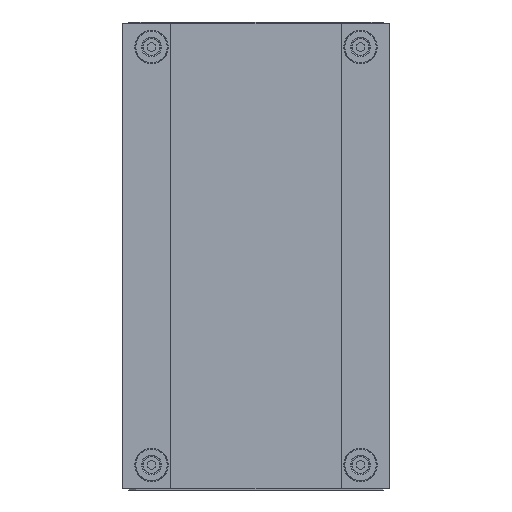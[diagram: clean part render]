
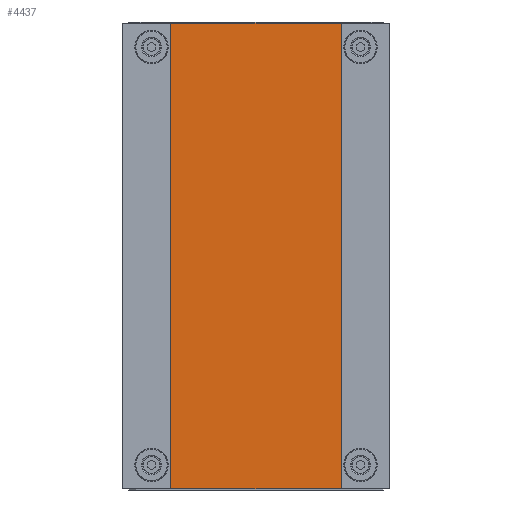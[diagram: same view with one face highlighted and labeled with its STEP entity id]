
A CAD part, front view. The second image highlights one B-rep face of the part: STEP entity #4437.
In plain terms, the highlighted planar face has unit normal (0, -1, 0).
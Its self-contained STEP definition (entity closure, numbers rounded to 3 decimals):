
#327 = CARTESIAN_POINT ( 'NONE',  ( 84.5, -20., -223. ) ) ;
#1914 = VERTEX_POINT ( 'NONE', #7737 ) ;
#2626 = LINE ( 'NONE', #2627, #2628 ) ;
#2627 = CARTESIAN_POINT ( 'NONE',  ( -84.5, -20., 223. ) ) ;
#2628 = VECTOR ( 'NONE', #2629, 1000. ) ;
#2629 = DIRECTION ( 'NONE',  ( 0., 0., -1. ) ) ;
#2631 = EDGE_CURVE ( 'NONE', #1914, #8973, #7889, .T. ) ;
#2759 = CARTESIAN_POINT ( 'NONE',  ( -84.5, -20., 223. ) ) ;
#3058 = CARTESIAN_POINT ( 'NONE',  ( -84.5, -20., -223. ) ) ;
#4437 = ADVANCED_FACE ( 'NONE', ( #8713 ), #8714, .F. ) ;
#5815 = EDGE_CURVE ( 'NONE', #5884, #6071, #2626, .T. ) ;
#5884 = VERTEX_POINT ( 'NONE', #2759 ) ;
#6071 = VERTEX_POINT ( 'NONE', #3058 ) ;
#6551 = EDGE_LOOP ( 'NONE', ( #6718, #7017, #7171, #7645 ) ) ;
#6718 = ORIENTED_EDGE ( 'NONE', *, *, #6841, .T. ) ;
#6841 = EDGE_CURVE ( 'NONE', #6071, #8973, #8692, .T. ) ;
#7017 = ORIENTED_EDGE ( 'NONE', *, *, #2631, .F. ) ;
#7171 = ORIENTED_EDGE ( 'NONE', *, *, #7265, .F. ) ;
#7265 = EDGE_CURVE ( 'NONE', #5884, #1914, #9741, .T. ) ;
#7645 = ORIENTED_EDGE ( 'NONE', *, *, #5815, .T. ) ;
#7737 = CARTESIAN_POINT ( 'NONE',  ( 84.5, -20., 223. ) ) ;
#7889 = LINE ( 'NONE', #7890, #7891 ) ;
#7890 = CARTESIAN_POINT ( 'NONE',  ( 84.5, -20., 223. ) ) ;
#7891 = VECTOR ( 'NONE', #7892, 1000. ) ;
#7892 = DIRECTION ( 'NONE',  ( 0., 0., -1. ) ) ;
#8692 = LINE ( 'NONE', #8693, #8694 ) ;
#8693 = CARTESIAN_POINT ( 'NONE',  ( 84.5, -20., -223. ) ) ;
#8694 = VECTOR ( 'NONE', #8695, 1000. ) ;
#8695 = DIRECTION ( 'NONE',  ( 1., 0., 0. ) ) ;
#8713 = FACE_OUTER_BOUND ( 'NONE', #6551, .T. ) ;
#8714 = PLANE ( 'NONE',  #8715 ) ;
#8715 = AXIS2_PLACEMENT_3D ( 'NONE', #8716, #8717, #8718 ) ;
#8716 = CARTESIAN_POINT ( 'NONE',  ( 84.5, -20., 223. ) ) ;
#8717 = DIRECTION ( 'NONE',  ( 0., 1., 0. ) ) ;
#8718 = DIRECTION ( 'NONE',  ( -1., 0., 0. ) ) ;
#8973 = VERTEX_POINT ( 'NONE', #327 ) ;
#9741 = LINE ( 'NONE', #9747, #9748 ) ;
#9747 = CARTESIAN_POINT ( 'NONE',  ( 84.5, -20., 223. ) ) ;
#9748 = VECTOR ( 'NONE', #9749, 1000. ) ;
#9749 = DIRECTION ( 'NONE',  ( 1., 0., 0. ) ) ;
